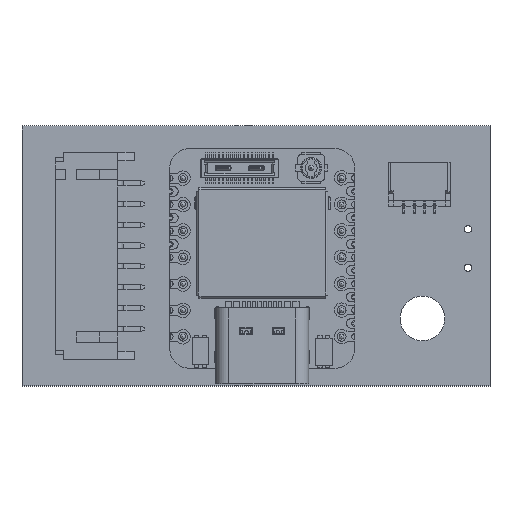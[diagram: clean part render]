
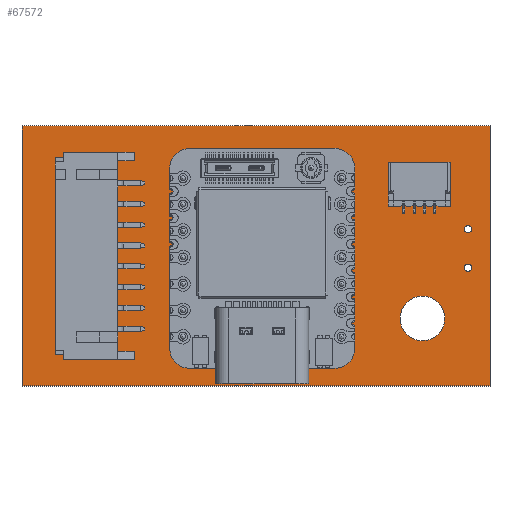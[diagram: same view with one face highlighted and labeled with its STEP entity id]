
A CAD part, top view. The second image highlights one B-rep face of the part: STEP entity #67572.
In plain terms, the highlighted planar face has unit normal (0, 0, 1).
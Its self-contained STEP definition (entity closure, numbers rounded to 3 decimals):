
#67273 = VERTEX_POINT('',#67274);
#67274 = CARTESIAN_POINT('',(22.5,-12.5,1.51));
#67280 = EDGE_CURVE('',#67273,#67281,#67283,.T.);
#67281 = VERTEX_POINT('',#67282);
#67282 = CARTESIAN_POINT('',(-22.5,-12.5,1.51));
#67283 = LINE('',#67284,#67285);
#67284 = CARTESIAN_POINT('',(22.5,-12.5,1.51));
#67285 = VECTOR('',#67286,1.);
#67286 = DIRECTION('',(-1.,0.,0.));
#67313 = VERTEX_POINT('',#67314);
#67314 = CARTESIAN_POINT('',(22.5,12.5,1.51));
#67320 = EDGE_CURVE('',#67313,#67273,#67321,.T.);
#67321 = LINE('',#67322,#67323);
#67322 = CARTESIAN_POINT('',(22.5,12.5,1.51));
#67323 = VECTOR('',#67324,1.);
#67324 = DIRECTION('',(0.,-1.,0.));
#67342 = EDGE_CURVE('',#67281,#67343,#67345,.T.);
#67343 = VERTEX_POINT('',#67344);
#67344 = CARTESIAN_POINT('',(-22.5,12.5,1.51));
#67345 = LINE('',#67346,#67347);
#67346 = CARTESIAN_POINT('',(-22.5,-12.5,1.51));
#67347 = VECTOR('',#67348,1.);
#67348 = DIRECTION('',(0.,1.,0.));
#67572 = ADVANCED_FACE('',(#67573,#67584,#67595,#67606,#67617,#67628,
    #67639,#67650,#67661,#67672,#67683,#67694,#67705,#67716,#67727,
    #67738,#67749,#67760),#67771,.T.);
#67573 = FACE_BOUND('',#67574,.T.);
#67574 = EDGE_LOOP('',(#67575,#67576,#67577,#67583));
#67575 = ORIENTED_EDGE('',*,*,#67280,.F.);
#67576 = ORIENTED_EDGE('',*,*,#67320,.F.);
#67577 = ORIENTED_EDGE('',*,*,#67578,.F.);
#67578 = EDGE_CURVE('',#67343,#67313,#67579,.T.);
#67579 = LINE('',#67580,#67581);
#67580 = CARTESIAN_POINT('',(-22.5,12.5,1.51));
#67581 = VECTOR('',#67582,1.);
#67582 = DIRECTION('',(1.,0.,0.));
#67583 = ORIENTED_EDGE('',*,*,#67342,.F.);
#67584 = FACE_BOUND('',#67585,.T.);
#67585 = EDGE_LOOP('',(#67586));
#67586 = ORIENTED_EDGE('',*,*,#67587,.T.);
#67587 = EDGE_CURVE('',#67588,#67588,#67590,.T.);
#67588 = VERTEX_POINT('',#67589);
#67589 = CARTESIAN_POINT('',(-7.162,-8.336,1.51));
#67590 = CIRCLE('',#67591,0.4);
#67591 = AXIS2_PLACEMENT_3D('',#67592,#67593,#67594);
#67592 = CARTESIAN_POINT('',(-7.162,-7.936,1.51));
#67593 = DIRECTION('',(-0.,0.,-1.));
#67594 = DIRECTION('',(-0.,-1.,0.));
#67595 = FACE_BOUND('',#67596,.T.);
#67596 = EDGE_LOOP('',(#67597));
#67597 = ORIENTED_EDGE('',*,*,#67598,.T.);
#67598 = EDGE_CURVE('',#67599,#67599,#67601,.T.);
#67599 = VERTEX_POINT('',#67600);
#67600 = CARTESIAN_POINT('',(-7.162,-5.796,1.51));
#67601 = CIRCLE('',#67602,0.4);
#67602 = AXIS2_PLACEMENT_3D('',#67603,#67604,#67605);
#67603 = CARTESIAN_POINT('',(-7.162,-5.396,1.51));
#67604 = DIRECTION('',(-0.,0.,-1.));
#67605 = DIRECTION('',(-0.,-1.,0.));
#67606 = FACE_BOUND('',#67607,.T.);
#67607 = EDGE_LOOP('',(#67608));
#67608 = ORIENTED_EDGE('',*,*,#67609,.T.);
#67609 = EDGE_CURVE('',#67610,#67610,#67612,.T.);
#67610 = VERTEX_POINT('',#67611);
#67611 = CARTESIAN_POINT('',(-7.162,-3.256,1.51));
#67612 = CIRCLE('',#67613,0.4);
#67613 = AXIS2_PLACEMENT_3D('',#67614,#67615,#67616);
#67614 = CARTESIAN_POINT('',(-7.162,-2.856,1.51));
#67615 = DIRECTION('',(-0.,0.,-1.));
#67616 = DIRECTION('',(-0.,-1.,0.));
#67617 = FACE_BOUND('',#67618,.T.);
#67618 = EDGE_LOOP('',(#67619));
#67619 = ORIENTED_EDGE('',*,*,#67620,.T.);
#67620 = EDGE_CURVE('',#67621,#67621,#67623,.T.);
#67621 = VERTEX_POINT('',#67622);
#67622 = CARTESIAN_POINT('',(8.078,-8.336,1.51));
#67623 = CIRCLE('',#67624,0.4);
#67624 = AXIS2_PLACEMENT_3D('',#67625,#67626,#67627);
#67625 = CARTESIAN_POINT('',(8.078,-7.936,1.51));
#67626 = DIRECTION('',(-0.,0.,-1.));
#67627 = DIRECTION('',(-0.,-1.,0.));
#67628 = FACE_BOUND('',#67629,.T.);
#67629 = EDGE_LOOP('',(#67630));
#67630 = ORIENTED_EDGE('',*,*,#67631,.T.);
#67631 = EDGE_CURVE('',#67632,#67632,#67634,.T.);
#67632 = VERTEX_POINT('',#67633);
#67633 = CARTESIAN_POINT('',(8.078,-5.796,1.51));
#67634 = CIRCLE('',#67635,0.4);
#67635 = AXIS2_PLACEMENT_3D('',#67636,#67637,#67638);
#67636 = CARTESIAN_POINT('',(8.078,-5.396,1.51));
#67637 = DIRECTION('',(-0.,0.,-1.));
#67638 = DIRECTION('',(-0.,-1.,0.));
#67639 = FACE_BOUND('',#67640,.T.);
#67640 = EDGE_LOOP('',(#67641));
#67641 = ORIENTED_EDGE('',*,*,#67642,.T.);
#67642 = EDGE_CURVE('',#67643,#67643,#67645,.T.);
#67643 = VERTEX_POINT('',#67644);
#67644 = CARTESIAN_POINT('',(16.,-8.15,1.51));
#67645 = CIRCLE('',#67646,2.15);
#67646 = AXIS2_PLACEMENT_3D('',#67647,#67648,#67649);
#67647 = CARTESIAN_POINT('',(16.,-6.,1.51));
#67648 = DIRECTION('',(-0.,0.,-1.));
#67649 = DIRECTION('',(-0.,-1.,0.));
#67650 = FACE_BOUND('',#67651,.T.);
#67651 = EDGE_LOOP('',(#67652));
#67652 = ORIENTED_EDGE('',*,*,#67653,.T.);
#67653 = EDGE_CURVE('',#67654,#67654,#67656,.T.);
#67654 = VERTEX_POINT('',#67655);
#67655 = CARTESIAN_POINT('',(8.078,-3.256,1.51));
#67656 = CIRCLE('',#67657,0.4);
#67657 = AXIS2_PLACEMENT_3D('',#67658,#67659,#67660);
#67658 = CARTESIAN_POINT('',(8.078,-2.856,1.51));
#67659 = DIRECTION('',(-0.,0.,-1.));
#67660 = DIRECTION('',(-0.,-1.,0.));
#67661 = FACE_BOUND('',#67662,.T.);
#67662 = EDGE_LOOP('',(#67663));
#67663 = ORIENTED_EDGE('',*,*,#67664,.T.);
#67664 = EDGE_CURVE('',#67665,#67665,#67667,.T.);
#67665 = VERTEX_POINT('',#67666);
#67666 = CARTESIAN_POINT('',(20.375,-1.475,1.51));
#67667 = CIRCLE('',#67668,0.35);
#67668 = AXIS2_PLACEMENT_3D('',#67669,#67670,#67671);
#67669 = CARTESIAN_POINT('',(20.375,-1.125,1.51));
#67670 = DIRECTION('',(-0.,0.,-1.));
#67671 = DIRECTION('',(-0.,-1.,0.));
#67672 = FACE_BOUND('',#67673,.T.);
#67673 = EDGE_LOOP('',(#67674));
#67674 = ORIENTED_EDGE('',*,*,#67675,.T.);
#67675 = EDGE_CURVE('',#67676,#67676,#67678,.T.);
#67676 = VERTEX_POINT('',#67677);
#67677 = CARTESIAN_POINT('',(-7.162,-0.716,1.51));
#67678 = CIRCLE('',#67679,0.4);
#67679 = AXIS2_PLACEMENT_3D('',#67680,#67681,#67682);
#67680 = CARTESIAN_POINT('',(-7.162,-0.316,1.51));
#67681 = DIRECTION('',(-0.,0.,-1.));
#67682 = DIRECTION('',(0.,-1.,-0.));
#67683 = FACE_BOUND('',#67684,.T.);
#67684 = EDGE_LOOP('',(#67685));
#67685 = ORIENTED_EDGE('',*,*,#67686,.T.);
#67686 = EDGE_CURVE('',#67687,#67687,#67689,.T.);
#67687 = VERTEX_POINT('',#67688);
#67688 = CARTESIAN_POINT('',(-7.162,1.824,1.51));
#67689 = CIRCLE('',#67690,0.4);
#67690 = AXIS2_PLACEMENT_3D('',#67691,#67692,#67693);
#67691 = CARTESIAN_POINT('',(-7.162,2.224,1.51));
#67692 = DIRECTION('',(-0.,0.,-1.));
#67693 = DIRECTION('',(-0.,-1.,0.));
#67694 = FACE_BOUND('',#67695,.T.);
#67695 = EDGE_LOOP('',(#67696));
#67696 = ORIENTED_EDGE('',*,*,#67697,.T.);
#67697 = EDGE_CURVE('',#67698,#67698,#67700,.T.);
#67698 = VERTEX_POINT('',#67699);
#67699 = CARTESIAN_POINT('',(-7.162,4.364,1.51));
#67700 = CIRCLE('',#67701,0.4);
#67701 = AXIS2_PLACEMENT_3D('',#67702,#67703,#67704);
#67702 = CARTESIAN_POINT('',(-7.162,4.764,1.51));
#67703 = DIRECTION('',(-0.,0.,-1.));
#67704 = DIRECTION('',(-0.,-1.,0.));
#67705 = FACE_BOUND('',#67706,.T.);
#67706 = EDGE_LOOP('',(#67707));
#67707 = ORIENTED_EDGE('',*,*,#67708,.T.);
#67708 = EDGE_CURVE('',#67709,#67709,#67711,.T.);
#67709 = VERTEX_POINT('',#67710);
#67710 = CARTESIAN_POINT('',(-7.162,6.904,1.51));
#67711 = CIRCLE('',#67712,0.4);
#67712 = AXIS2_PLACEMENT_3D('',#67713,#67714,#67715);
#67713 = CARTESIAN_POINT('',(-7.162,7.304,1.51));
#67714 = DIRECTION('',(-0.,0.,-1.));
#67715 = DIRECTION('',(0.,-1.,-0.));
#67716 = FACE_BOUND('',#67717,.T.);
#67717 = EDGE_LOOP('',(#67718));
#67718 = ORIENTED_EDGE('',*,*,#67719,.T.);
#67719 = EDGE_CURVE('',#67720,#67720,#67722,.T.);
#67720 = VERTEX_POINT('',#67721);
#67721 = CARTESIAN_POINT('',(8.078,-0.716,1.51));
#67722 = CIRCLE('',#67723,0.4);
#67723 = AXIS2_PLACEMENT_3D('',#67724,#67725,#67726);
#67724 = CARTESIAN_POINT('',(8.078,-0.316,1.51));
#67725 = DIRECTION('',(-0.,0.,-1.));
#67726 = DIRECTION('',(-0.,-1.,0.));
#67727 = FACE_BOUND('',#67728,.T.);
#67728 = EDGE_LOOP('',(#67729));
#67729 = ORIENTED_EDGE('',*,*,#67730,.T.);
#67730 = EDGE_CURVE('',#67731,#67731,#67733,.T.);
#67731 = VERTEX_POINT('',#67732);
#67732 = CARTESIAN_POINT('',(8.078,1.824,1.51));
#67733 = CIRCLE('',#67734,0.4);
#67734 = AXIS2_PLACEMENT_3D('',#67735,#67736,#67737);
#67735 = CARTESIAN_POINT('',(8.078,2.224,1.51));
#67736 = DIRECTION('',(-0.,0.,-1.));
#67737 = DIRECTION('',(-0.,-1.,0.));
#67738 = FACE_BOUND('',#67739,.T.);
#67739 = EDGE_LOOP('',(#67740));
#67740 = ORIENTED_EDGE('',*,*,#67741,.T.);
#67741 = EDGE_CURVE('',#67742,#67742,#67744,.T.);
#67742 = VERTEX_POINT('',#67743);
#67743 = CARTESIAN_POINT('',(20.375,2.225,1.51));
#67744 = CIRCLE('',#67745,0.35);
#67745 = AXIS2_PLACEMENT_3D('',#67746,#67747,#67748);
#67746 = CARTESIAN_POINT('',(20.375,2.575,1.51));
#67747 = DIRECTION('',(-0.,0.,-1.));
#67748 = DIRECTION('',(-0.,-1.,0.));
#67749 = FACE_BOUND('',#67750,.T.);
#67750 = EDGE_LOOP('',(#67751));
#67751 = ORIENTED_EDGE('',*,*,#67752,.T.);
#67752 = EDGE_CURVE('',#67753,#67753,#67755,.T.);
#67753 = VERTEX_POINT('',#67754);
#67754 = CARTESIAN_POINT('',(8.078,4.364,1.51));
#67755 = CIRCLE('',#67756,0.4);
#67756 = AXIS2_PLACEMENT_3D('',#67757,#67758,#67759);
#67757 = CARTESIAN_POINT('',(8.078,4.764,1.51));
#67758 = DIRECTION('',(-0.,0.,-1.));
#67759 = DIRECTION('',(-0.,-1.,0.));
#67760 = FACE_BOUND('',#67761,.T.);
#67761 = EDGE_LOOP('',(#67762));
#67762 = ORIENTED_EDGE('',*,*,#67763,.T.);
#67763 = EDGE_CURVE('',#67764,#67764,#67766,.T.);
#67764 = VERTEX_POINT('',#67765);
#67765 = CARTESIAN_POINT('',(8.078,6.904,1.51));
#67766 = CIRCLE('',#67767,0.4);
#67767 = AXIS2_PLACEMENT_3D('',#67768,#67769,#67770);
#67768 = CARTESIAN_POINT('',(8.078,7.304,1.51));
#67769 = DIRECTION('',(-0.,0.,-1.));
#67770 = DIRECTION('',(-0.,-1.,0.));
#67771 = PLANE('',#67772);
#67772 = AXIS2_PLACEMENT_3D('',#67773,#67774,#67775);
#67773 = CARTESIAN_POINT('',(0.,0.,1.51));
#67774 = DIRECTION('',(0.,0.,1.));
#67775 = DIRECTION('',(1.,0.,-0.));
